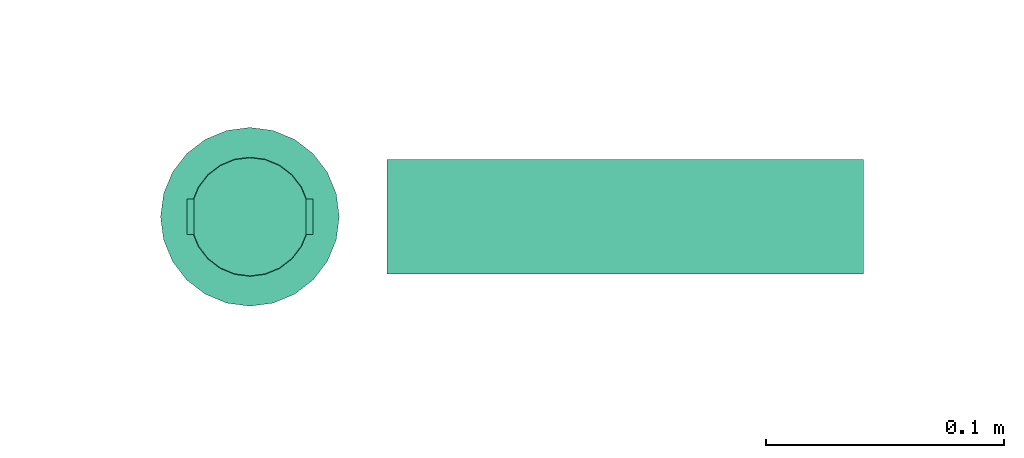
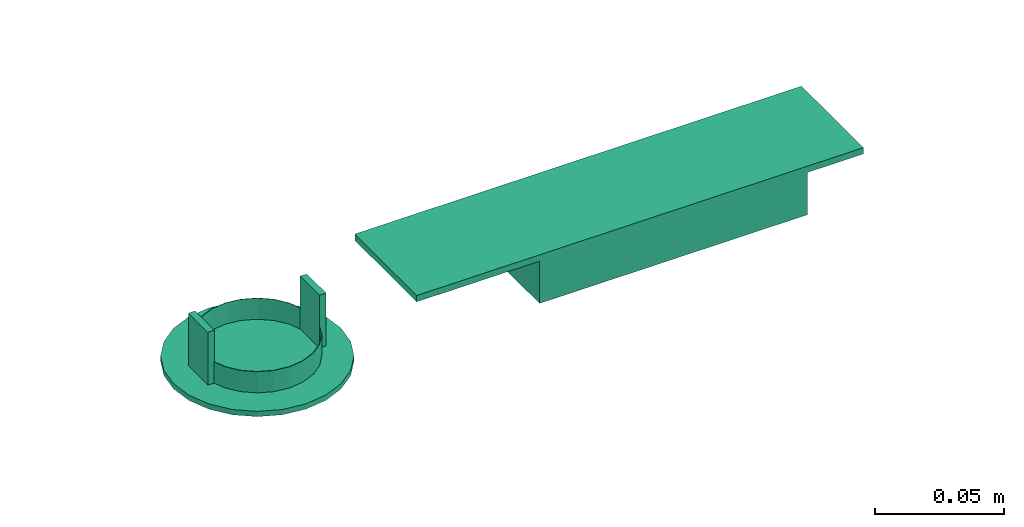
# One storey, part 2 of 7: 1 flow terminal.
"""IFC2X3 building model written with IfcOpenShell, lengths in millimetres."""

from ifc_helpers import new_model, entity, si_unit, converted_unit, derived_unit, direction, frame, origin_with_axes, place, context, subcontext, project, spatial, open_shell, surface_model, source, transform, mapped, type_object, element, save


model = new_model("IFC2X3")

# Units and contexts
model_context = context("Model", 3, precision=0.01, world=frame((0.0, 4.29681676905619e-09, 0.0)), true_north=direction((4.01073788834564e-13, 1.0)))
plan_context = context("Plan", 3, precision=0.01, world=frame((0.0, 4.29681676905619e-09, 0.0)), true_north=direction((4.01073788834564e-13, 1.0)))
body_context = subcontext(model_context, "Body", "Model", "MODEL_VIEW")
ifc_project = project(units=[converted_unit("PLANEANGLEUNIT", "DEGREE", entity("IfcPositiveLengthMeasure", 0.0174532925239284), si_unit("PLANEANGLEUNIT", "RADIAN"), dimensions=[0, 0, 0, 0, 0, 0, 0]), si_unit("AREAUNIT", "SQUARE_METRE"), si_unit("LENGTHUNIT", "METRE", prefix="MILLI"), si_unit("MASSUNIT", "GRAM", prefix="KILO"), si_unit("POWERUNIT", "WATT"), si_unit("PRESSUREUNIT", "PASCAL"), si_unit("FORCEUNIT", "NEWTON", prefix="KILO"), si_unit("ELECTRICVOLTAGEUNIT", "VOLT"), si_unit("ELECTRICCURRENTUNIT", "AMPERE"), si_unit("THERMODYNAMICTEMPERATUREUNIT", "DEGREE_CELSIUS"), si_unit("TIMEUNIT", "SECOND"), si_unit("VOLUMEUNIT", "CUBIC_METRE"), derived_unit("LINEARVELOCITYUNIT", [(si_unit("LENGTHUNIT", "METRE"), 1), (si_unit("TIMEUNIT", "SECOND"), -1)]), derived_unit("VOLUMETRICFLOWRATEUNIT", [(si_unit("VOLUMEUNIT", "CUBIC_METRE"), 1), (si_unit("TIMEUNIT", "SECOND"), -1)]), derived_unit("THERMALTRANSMITTANCEUNIT", [(si_unit("POWERUNIT", "WATT"), 1), (si_unit("THERMODYNAMICTEMPERATUREUNIT", "KELVIN"), -1), (si_unit("AREAUNIT", "SQUARE_METRE"), -1)]), derived_unit("SOUNDPRESSUREUNIT", [(si_unit("PRESSUREUNIT", "PASCAL"), 1)])], contexts=[model_context, plan_context])

# Site, building, storey
site_placement = place(None, frame((0.0, -4.29681676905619e-09, 0.0), z_axis=(0.0, 0.0, 1.0), x_axis=(1.0, 0.0, 0.0)))
site = spatial("IfcSite", under=ifc_project, at=site_placement, Name="ENGM", CompositionType="ELEMENT")
building_placement = place(site_placement, frame((0.0, 4.29681676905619e-09, 0.0), z_axis=(0.0, 0.0, 1.0), x_axis=(1.0, 0.0, 0.0)))
building = spatial("IfcBuilding", under=site, at=building_placement, Name="TH", CompositionType="ELEMENT")
storey_placement = place(building_placement, frame((0.0, 0.0, 210900.0), z_axis=(0.0, 0.0, 1.0), x_axis=(1.0, 0.0, 0.0)))
storey = spatial("IfcBuildingStorey", under=building, at=storey_placement, Name="Nivå F", CompositionType="ELEMENT", Elevation=210900.0)

# Flow terminal
light_fixture_type = type_object("IfcLightFixtureType", Name="IB7405 Zumtobel Resclite C Antipanic ED NDA WH", PredefinedType="NOTDEFINED")
shared_shape = source(origin_with_axes(), body_context, "Body", "SurfaceModel", [
    surface_model("IfcShellBasedSurfaceModel", [(6.47048, -24.14815, -4.9), (12.5, -21.65064, -4.9), (17.67767, -17.67767, -4.9), (24.14815, -6.47048, -4.9), (-24.14815, -6.47048, -4.9), (21.65064, -12.5, -4.9), (-21.65064, 12.5, -4.9), (0.0, -25.0, -4.9), (-12.5, -21.65064, -4.9), (-6.47048, -24.14815, -4.9), (-17.67767, -17.67767, -4.9), (-21.65064, -12.5, -4.9), (25.0, 0.0, -4.9), (24.14815, 6.47048, -4.9), (21.65064, 12.5, -4.9), (17.67767, 17.67767, -4.9), (12.5, 21.65064, -4.9), (6.47048, 24.14815, -4.9), (0.0, 25.0, -4.9), (-25.0, 0.0, -4.9), (-24.14815, 6.47048, -4.9), (-12.5, 21.65064, -4.9), (-17.67767, 17.67767, -4.9), (-6.47048, 24.14815, -4.9), (0.0, 25.0, -5.1), (6.47048, 24.14815, -5.1), (12.5, 21.65064, -5.1), (-21.65064, 12.5, -5.1), (17.67767, 17.67767, -5.1), (21.65064, 12.5, -5.1), (24.14815, 6.47048, -5.1), (-12.5, 21.65064, -5.1), (-17.67767, 17.67767, -5.1), (-6.47048, 24.14815, -5.1), (-25.0, 0.0, -5.1), (-24.14815, 6.47048, -5.1), (-24.14815, -6.47048, -5.1), (24.14815, -6.47048, -5.1), (6.47048, -24.14815, -5.1), (21.65064, -12.5, -5.1), (17.67767, -17.67767, -5.1), (12.5, -21.65064, -5.1), (-12.5, -21.65064, -5.1), (-17.67767, -17.67767, -5.1), (-21.65064, -12.5, -5.1), (0.0, -25.0, -5.1), (-6.47048, -24.14815, -5.1), (25.0, 0.0, -5.1), (232.5, -24.0, 0.0), (232.5, 24.0, 0.0), (232.5, 24.0, 20.0), (232.5, -24.0, 20.0), (112.5, -24.0, 20.0), (112.5, 24.0, 20.0), (112.5, 24.0, 0.0), (112.5, -24.0, 0.0), (57.5, 24.0, 23.0), (57.5, -24.0, 23.0), (257.5, 24.0, 23.0), (257.5, -24.0, 23.0), (257.5, 24.0, 20.0), (257.5, -24.0, 20.0), (57.5, 24.0, 20.0), (57.5, -24.0, 20.0), (23.5, -7.5, 25.0), (26.5, -7.5, 25.0), (23.5, 7.5, 25.0), (26.5, 7.5, 25.0), (23.5, 7.5, 0.0), (26.5, 7.5, 0.0), (23.5, -7.5, 0.0), (26.5, -7.5, 0.0), (-26.5, -7.5, 25.0), (-23.5, -7.5, 25.0), (-26.5, 7.5, 25.0), (-23.5, 7.5, 25.0), (-26.5, 7.5, 0.0), (-23.5, 7.5, 0.0), (-26.5, -7.5, 0.0), (-23.5, -7.5, 0.0), (-20.22543, -14.69463, -5.0), (-25.0, 0.0, -5.0), (7.72542, -23.77641, -5.0), (-7.72542, -23.77641, -5.0), (20.22543, -14.69463, -5.0), (-7.72542, 23.77641, -5.0), (7.72542, 23.77641, -5.0), (20.22543, 14.69463, -5.0), (25.0, 0.0, -5.0), (-20.22543, 14.69463, -5.0), (0.0, -37.5, -2.5), (18.75, -32.47595, -2.5), (32.47595, -18.75, -2.5), (-18.75, -32.47595, -2.5), (-37.5, 0.0, -2.5), (-32.47595, -18.75, -2.5), (18.75, 32.47595, -2.5), (32.47595, 18.75, -2.5), (0.0, 37.5, -2.5), (-32.47595, 18.75, -2.5), (-18.75, 32.47595, -2.5), (37.5, 0.0, -2.5), (22.61271, 7.34732, -5.0), (34.29463, 11.96261, -2.5), (25.61298, 25.61298, -2.5), (13.97542, 19.23552, -5.0), (-13.97542, 19.23552, -5.0), (-34.29463, 11.96261, -2.5), (-22.61271, 7.34732, -5.0), (-25.61298, 25.61298, -2.5), (0.0, 23.77641, -5.0), (9.375, 34.98798, -2.5), (-9.375, 34.98798, -2.5), (-22.61271, -7.34732, -5.0), (-34.29463, -11.96261, -2.5), (-25.61298, -25.61298, -2.5), (-13.97542, -19.23552, -5.0), (13.97542, -19.23552, -5.0), (34.29463, -11.96261, -2.5), (22.61271, -7.34732, -5.0), (25.61298, -25.61298, -2.5), (0.0, -23.77641, -5.0), (-9.375, -34.98798, -2.5), (9.375, -34.98798, -2.5), (12.5, -21.65064, 10.0), (17.67767, -17.67767, 10.0), (12.4, -21.47743, 10.0), (6.41871, -23.95496, 10.0), (0.0, -24.8, 10.0), (6.47048, -24.14815, 10.0), (0.0, -25.0, 10.0), (17.53625, -17.53625, 10.0), (24.14815, -6.47048, 10.0), (24.8, 0.0, 10.0), (23.95496, -6.41871, 10.0), (25.0, 0.0, 10.0), (21.65064, -12.5, 10.0), (21.47743, -12.4, 10.0), (-6.41871, -23.95496, 10.0), (-6.47048, -24.14815, 10.0), (-12.4, -21.47743, 10.0), (-17.67767, -17.67767, 10.0), (-12.5, -21.65064, 10.0), (-17.53625, -17.53625, 10.0), (-21.47743, -12.4, 10.0), (-21.65064, -12.5, 10.0), (-23.95496, -6.41871, 10.0), (-24.14815, -6.47048, 10.0), (-24.8, 0.0, 10.0), (-25.0, 0.0, 10.0), (24.14815, 6.47048, 10.0), (23.95496, 6.41871, 10.0), (21.47743, 12.4, 10.0), (21.65064, 12.5, 10.0), (17.53625, 17.53625, 10.0), (17.67767, 17.67767, 10.0), (12.5, 21.65064, 10.0), (12.4, 21.47743, 10.0), (6.41871, 23.95496, 10.0), (6.47048, 24.14815, 10.0), (0.0, 24.8, 10.0), (0.0, 25.0, 10.0), (-21.65064, 12.5, 10.0), (-21.47743, 12.4, 10.0), (-17.67767, 17.67767, 10.0), (-17.53625, 17.53625, 10.0), (-24.14815, 6.47048, 10.0), (-23.95496, 6.41871, 10.0), (-6.41871, 23.95496, 10.0), (-6.47048, 24.14815, 10.0), (-12.4, 21.47743, 10.0), (-12.5, 21.65064, 10.0), (12.5, 21.65064, 0.0), (17.67767, 17.67767, 0.0), (12.4, 21.47743, 0.0), (6.41871, 23.95496, 0.0), (0.0, 24.8, 0.0), (6.47048, 24.14815, 0.0), (0.0, 25.0, 0.0), (17.53625, 17.53625, 0.0), (24.14815, 6.47048, 0.0), (24.8, 0.0, 0.0), (23.95496, 6.41871, 0.0), (25.0, 0.0, 0.0), (21.65064, 12.5, 0.0), (21.47743, 12.4, 0.0), (-6.41871, 23.95496, 0.0), (-6.47048, 24.14815, 0.0), (-12.4, 21.47743, 0.0), (-17.67767, 17.67767, 0.0), (-12.5, 21.65064, 0.0), (-17.53625, 17.53625, 0.0), (-21.47743, 12.4, 0.0), (-21.65064, 12.5, 0.0), (-23.95496, 6.41871, 0.0), (-24.14815, 6.47048, 0.0), (-24.8, 0.0, 0.0), (-25.0, 0.0, 0.0), (24.14815, -6.47048, 0.0), (23.95496, -6.41871, 0.0), (21.47743, -12.4, 0.0), (21.65064, -12.5, 0.0), (17.53625, -17.53625, 0.0), (17.67767, -17.67767, 0.0), (12.5, -21.65064, 0.0), (12.4, -21.47743, 0.0), (6.41871, -23.95496, 0.0), (6.47048, -24.14815, 0.0), (0.0, -24.8, 0.0), (0.0, -25.0, 0.0), (-21.65064, -12.5, 0.0), (-21.47743, -12.4, 0.0), (-17.67767, -17.67767, 0.0), (-17.53625, -17.53625, 0.0), (-24.14815, -6.47048, 0.0), (-23.95496, -6.41871, 0.0), (-6.41871, -23.95496, 0.0), (-6.47048, -24.14815, 0.0), (-12.4, -21.47743, 0.0), (-12.5, -21.65064, 0.0), (9.70571, -36.22222, 0.0), (18.75, -32.47595, 0.0), (26.5165, -26.5165, 0.0), (32.47595, -18.75, 0.0), (36.22222, -9.70571, 0.0), (0.0, -37.5, 0.0), (36.22222, 9.70571, 0.0), (-36.22222, -9.70571, 0.0), (-18.75, -32.47595, 0.0), (-9.70571, -36.22222, 0.0), (-26.5165, -26.5165, 0.0), (-32.47595, -18.75, 0.0), (37.5, 0.0, 0.0), (32.47595, 18.75, 0.0), (26.5165, 26.5165, 0.0), (0.0, 37.5, 0.0), (9.70571, 36.22222, 0.0), (18.75, 32.47595, 0.0), (-26.5165, 26.5165, 0.0), (-36.22222, 9.70571, 0.0), (-32.47595, 18.75, 0.0), (-37.5, 0.0, 0.0), (-9.70571, 36.22222, 0.0), (-18.75, 32.47595, 0.0), (26.5165, 26.5165, -2.5), (18.65, 32.30275, -2.5), (9.65395, 36.02903, -2.5), (0.0, 37.3, -2.5), (9.70571, 36.22222, -2.5), (26.37508, 26.37508, -2.5), (36.22222, 9.70571, -2.5), (37.3, 0.0, -2.5), (36.02903, 9.65395, -2.5), (32.30275, 18.65, -2.5), (-9.65395, 36.02903, -2.5), (-9.70571, 36.22222, -2.5), (-18.65, 32.30275, -2.5), (-26.5165, 26.5165, -2.5), (-26.37508, 26.37508, -2.5), (-32.30275, 18.65, -2.5), (-36.02903, 9.65395, -2.5), (-36.22222, 9.70571, -2.5), (-37.3, 0.0, -2.5), (36.22222, -9.70571, -2.5), (36.02903, -9.65395, -2.5), (32.30275, -18.65, -2.5), (26.37508, -26.37508, -2.5), (26.5165, -26.5165, -2.5), (18.65, -32.30275, -2.5), (9.65395, -36.02903, -2.5), (9.70571, -36.22222, -2.5), (0.0, -37.3, -2.5), (-32.30275, -18.65, -2.5), (-26.5165, -26.5165, -2.5), (-26.37508, -26.37508, -2.5), (-36.22222, -9.70571, -2.5), (-36.02903, -9.65395, -2.5), (-9.65395, -36.02903, -2.5), (-9.70571, -36.22222, -2.5), (-18.65, -32.30275, -2.5), (26.37508, -26.37508, -0.2), (18.65, -32.30275, -0.2), (9.65395, -36.02903, -0.2), (0.0, -37.3, -0.2), (36.02903, -9.65395, -0.2), (32.30275, -18.65, -0.2), (36.02903, 9.65395, -0.2), (-9.65395, -36.02903, -0.2), (-18.65, -32.30275, -0.2), (-32.30275, -18.65, -0.2), (-26.37508, -26.37508, -0.2), (-37.3, 0.0, -0.2), (-36.02903, -9.65395, -0.2), (37.3, 0.0, -0.2), (26.37508, 26.37508, -0.2), (32.30275, 18.65, -0.2), (0.0, 37.3, -0.2), (9.65395, 36.02903, -0.2), (18.65, 32.30275, -0.2), (-9.65395, 36.02903, -0.2), (-32.30275, 18.65, -0.2), (-26.37508, 26.37508, -0.2), (-36.02903, 9.65395, -0.2), (-18.65, 32.30275, -0.2)], [open_shell([[[0, 1, 2]], [[0, 2, 3]], [[0, 3, 4]], [[3, 2, 5]], [[6, 4, 3]], [[7, 8, 9]], [[7, 0, 8]], [[10, 4, 11]], [[10, 8, 0]], [[4, 10, 0]], [[3, 12, 6]], [[13, 14, 15]], [[13, 15, 16]], [[16, 17, 18]], [[13, 16, 6]], [[6, 16, 18]], [[19, 6, 20]], [[4, 6, 19]], [[6, 21, 22]], [[21, 6, 23]], [[18, 23, 6]], [[6, 12, 13]], [[24, 25, 26]], [[27, 24, 26]], [[28, 29, 30]], [[28, 30, 26]], [[27, 26, 30]], [[31, 27, 32]], [[27, 31, 33]], [[27, 34, 35]], [[27, 33, 24]], [[27, 36, 34]], [[27, 30, 37]], [[36, 27, 37]], [[38, 37, 39]], [[40, 41, 38]], [[40, 38, 39]], [[42, 37, 38]], [[36, 43, 44]], [[36, 37, 43]], [[42, 45, 46]], [[43, 37, 42]], [[38, 45, 42]], [[37, 30, 47]], [[36, 4, 34]], [[44, 11, 36]], [[8, 43, 42]], [[44, 43, 10]], [[9, 42, 46]], [[36, 11, 4]], [[4, 19, 34]], [[9, 8, 42]], [[10, 43, 8]], [[10, 11, 44]], [[7, 9, 46]], [[46, 45, 7]], [[38, 0, 45]], [[41, 1, 38]], [[5, 40, 39]], [[41, 40, 2]], [[3, 39, 37]], [[41, 2, 1]], [[1, 0, 38]], [[12, 3, 37]], [[5, 39, 3]], [[5, 2, 40]], [[47, 12, 37]], [[45, 0, 7]], [[30, 13, 47]], [[29, 14, 30]], [[16, 28, 26]], [[29, 28, 15]], [[17, 26, 25]], [[30, 14, 13]], [[13, 12, 47]], [[17, 16, 26]], [[15, 28, 16]], [[15, 14, 29]], [[18, 17, 25]], [[25, 24, 18]], [[33, 23, 24]], [[31, 21, 33]], [[6, 32, 27]], [[31, 32, 22]], [[20, 27, 35]], [[31, 22, 21]], [[21, 23, 33]], [[19, 20, 35]], [[6, 27, 20]], [[6, 22, 32]], [[34, 19, 35]], [[24, 23, 18]], [[48, 49, 50]], [[50, 51, 48]], [[52, 53, 54]], [[54, 55, 52]], [[50, 49, 54]], [[54, 53, 50]], [[51, 50, 53]], [[53, 52, 51]], [[48, 51, 52]], [[52, 55, 48]], [[49, 48, 55]], [[55, 54, 49]], [[56, 57, 58]], [[59, 58, 57]], [[60, 61, 62]], [[63, 62, 61]], [[59, 57, 63]], [[63, 61, 59]], [[58, 59, 61]], [[61, 60, 58]], [[56, 58, 60]], [[60, 62, 56]], [[57, 56, 62]], [[62, 63, 57]], [[64, 65, 66]], [[67, 66, 65]], [[68, 69, 70]], [[71, 70, 69]], [[67, 65, 71]], [[71, 69, 67]], [[66, 67, 68]], [[69, 68, 67]], [[64, 66, 68]], [[68, 70, 64]], [[65, 64, 71]], [[70, 71, 64]], [[72, 73, 74]], [[75, 74, 73]], [[76, 77, 78]], [[79, 78, 77]], [[75, 73, 79]], [[79, 77, 75]], [[74, 75, 76]], [[77, 76, 75]], [[72, 74, 76]], [[76, 78, 72]], [[73, 72, 79]], [[78, 79, 72]], [[80, 81, 82]], [[80, 82, 83]], [[82, 81, 84]], [[81, 85, 84]], [[86, 84, 85]], [[84, 87, 88]], [[84, 86, 87]], [[85, 81, 89]], [[90, 91, 92]], [[90, 92, 93]], [[93, 94, 95]], [[96, 94, 93]], [[93, 92, 96]], [[97, 96, 92]], [[98, 94, 96]], [[99, 98, 100]], [[99, 94, 98]], [[92, 101, 97]], [[102, 101, 88]], [[97, 103, 102]], [[104, 87, 105]], [[97, 102, 87]], [[101, 102, 103]], [[100, 85, 106]], [[97, 87, 104]], [[105, 86, 96]], [[105, 96, 104]], [[94, 107, 108]], [[99, 108, 107]], [[108, 81, 94]], [[89, 99, 109]], [[110, 111, 86]], [[85, 100, 112]], [[111, 110, 98]], [[106, 89, 109]], [[89, 108, 99]], [[100, 106, 109]], [[85, 112, 110]], [[110, 112, 98]], [[111, 96, 86]], [[113, 94, 81]], [[95, 114, 113]], [[115, 80, 116]], [[95, 113, 80]], [[94, 113, 114]], [[91, 82, 117]], [[95, 80, 115]], [[116, 83, 93]], [[116, 93, 115]], [[101, 118, 119]], [[92, 119, 118]], [[119, 88, 101]], [[84, 92, 120]], [[121, 122, 83]], [[82, 91, 123]], [[122, 121, 90]], [[117, 84, 120]], [[84, 119, 92]], [[91, 117, 120]], [[82, 123, 121]], [[121, 123, 90]], [[122, 93, 83]], [[124, 125, 126]], [[124, 126, 127]], [[128, 129, 127]], [[129, 128, 130]], [[127, 129, 124]], [[126, 125, 131]], [[132, 133, 134]], [[133, 132, 135]], [[132, 134, 136]], [[131, 136, 137]], [[136, 131, 125]], [[137, 136, 134]], [[130, 138, 139]], [[139, 138, 140]], [[141, 142, 143]], [[140, 142, 139]], [[140, 143, 142]], [[130, 128, 138]], [[144, 145, 141]], [[145, 144, 146]], [[144, 141, 143]], [[147, 146, 148]], [[146, 147, 145]], [[147, 148, 149]], [[135, 150, 151]], [[151, 150, 152]], [[152, 153, 154]], [[153, 152, 150]], [[154, 153, 155]], [[155, 156, 157]], [[157, 156, 158]], [[158, 159, 160]], [[159, 158, 156]], [[160, 159, 161]], [[157, 154, 155]], [[162, 163, 164]], [[164, 163, 165]], [[163, 162, 166]], [[149, 167, 166]], [[166, 167, 163]], [[149, 148, 167]], [[168, 161, 169]], [[168, 169, 170]], [[165, 171, 164]], [[165, 170, 171]], [[171, 170, 169]], [[160, 161, 168]], [[151, 133, 135]], [[172, 173, 174]], [[172, 174, 175]], [[176, 177, 175]], [[177, 176, 178]], [[175, 177, 172]], [[174, 173, 179]], [[180, 181, 182]], [[181, 180, 183]], [[180, 182, 184]], [[179, 184, 185]], [[184, 179, 173]], [[185, 184, 182]], [[178, 186, 187]], [[187, 186, 188]], [[189, 190, 191]], [[188, 190, 187]], [[188, 191, 190]], [[178, 176, 186]], [[192, 193, 189]], [[193, 192, 194]], [[192, 189, 191]], [[195, 194, 196]], [[194, 195, 193]], [[195, 196, 197]], [[183, 198, 199]], [[199, 198, 200]], [[200, 201, 202]], [[201, 200, 198]], [[202, 201, 203]], [[203, 204, 205]], [[205, 204, 206]], [[206, 207, 208]], [[207, 206, 204]], [[208, 207, 209]], [[205, 202, 203]], [[210, 211, 212]], [[212, 211, 213]], [[211, 210, 214]], [[197, 215, 214]], [[214, 215, 211]], [[197, 196, 215]], [[216, 209, 217]], [[216, 217, 218]], [[213, 219, 212]], [[213, 218, 219]], [[219, 218, 217]], [[208, 209, 216]], [[199, 181, 183]], [[214, 147, 197]], [[210, 145, 214]], [[142, 212, 219]], [[210, 212, 141]], [[139, 219, 217]], [[214, 145, 147]], [[147, 149, 197]], [[139, 142, 219]], [[141, 212, 142]], [[141, 145, 210]], [[130, 139, 217]], [[217, 209, 130]], [[207, 129, 209]], [[204, 124, 207]], [[136, 203, 201]], [[204, 203, 125]], [[132, 201, 198]], [[204, 125, 124]], [[124, 129, 207]], [[135, 132, 198]], [[136, 201, 132]], [[136, 125, 203]], [[183, 135, 198]], [[209, 129, 130]], [[180, 150, 183]], [[184, 153, 180]], [[156, 173, 172]], [[184, 173, 155]], [[159, 172, 177]], [[180, 153, 150]], [[150, 135, 183]], [[159, 156, 172]], [[155, 173, 156]], [[155, 153, 184]], [[161, 159, 177]], [[177, 178, 161]], [[187, 169, 178]], [[190, 171, 187]], [[162, 189, 193]], [[190, 189, 164]], [[166, 193, 195]], [[190, 164, 171]], [[171, 169, 187]], [[149, 166, 195]], [[162, 193, 166]], [[162, 164, 189]], [[197, 149, 195]], [[178, 169, 161]], [[196, 146, 215]], [[215, 144, 211]], [[218, 213, 140]], [[143, 213, 211]], [[216, 218, 138]], [[146, 144, 215]], [[196, 148, 146]], [[218, 140, 138]], [[140, 213, 143]], [[211, 144, 143]], [[216, 138, 128]], [[128, 208, 216]], [[208, 127, 206]], [[206, 126, 205]], [[200, 202, 137]], [[131, 202, 205]], [[199, 200, 134]], [[126, 131, 205]], [[206, 127, 126]], [[199, 134, 133]], [[134, 200, 137]], [[202, 131, 137]], [[199, 133, 181]], [[128, 127, 208]], [[181, 151, 182]], [[182, 152, 185]], [[174, 179, 157]], [[154, 179, 185]], [[175, 174, 158]], [[151, 152, 182]], [[181, 133, 151]], [[174, 157, 158]], [[157, 179, 154]], [[185, 152, 154]], [[175, 158, 160]], [[160, 176, 175]], [[176, 168, 186]], [[186, 170, 188]], [[192, 191, 163]], [[165, 191, 188]], [[194, 192, 167]], [[170, 165, 188]], [[186, 168, 170]], [[194, 167, 148]], [[167, 192, 163]], [[191, 165, 163]], [[194, 148, 196]], [[160, 168, 176]], [[220, 221, 222]], [[220, 222, 223]], [[220, 224, 225]], [[224, 220, 223]], [[226, 227, 224]], [[225, 228, 229]], [[225, 224, 228]], [[224, 230, 228]], [[224, 231, 230]], [[227, 231, 224]], [[224, 232, 226]], [[226, 233, 234]], [[226, 234, 235]], [[236, 235, 234]], [[236, 234, 237]], [[238, 227, 235]], [[239, 238, 240]], [[238, 239, 241]], [[238, 242, 243]], [[241, 227, 238]], [[235, 242, 238]], [[235, 227, 226]], [[96, 244, 245]], [[96, 245, 246]], [[247, 248, 246]], [[248, 247, 98]], [[246, 248, 96]], [[245, 244, 249]], [[250, 251, 252]], [[251, 250, 101]], [[250, 252, 97]], [[249, 97, 253]], [[97, 249, 244]], [[253, 97, 252]], [[98, 254, 255]], [[255, 254, 256]], [[257, 100, 258]], [[256, 100, 255]], [[256, 258, 100]], [[98, 247, 254]], [[259, 99, 257]], [[99, 259, 260]], [[259, 257, 258]], [[261, 260, 262]], [[260, 261, 99]], [[261, 262, 94]], [[101, 263, 264]], [[264, 263, 265]], [[265, 92, 266]], [[92, 265, 263]], [[266, 92, 267]], [[267, 91, 268]], [[268, 91, 269]], [[269, 270, 271]], [[270, 269, 91]], [[271, 270, 90]], [[268, 266, 267]], [[95, 272, 273]], [[273, 272, 274]], [[272, 95, 275]], [[94, 276, 275]], [[275, 276, 272]], [[94, 262, 276]], [[277, 90, 278]], [[277, 278, 279]], [[274, 93, 273]], [[274, 279, 93]], [[93, 279, 278]], [[271, 90, 277]], [[264, 251, 101]], [[275, 227, 94]], [[95, 231, 275]], [[228, 273, 93]], [[95, 273, 230]], [[229, 93, 278]], [[275, 231, 227]], [[227, 241, 94]], [[229, 228, 93]], [[230, 273, 228]], [[230, 231, 95]], [[225, 229, 278]], [[278, 90, 225]], [[270, 220, 90]], [[91, 221, 270]], [[223, 267, 92]], [[91, 267, 222]], [[224, 92, 263]], [[91, 222, 221]], [[221, 220, 270]], [[232, 224, 263]], [[223, 92, 224]], [[223, 222, 267]], [[101, 232, 263]], [[90, 220, 225]], [[250, 226, 101]], [[97, 233, 250]], [[237, 244, 96]], [[97, 244, 234]], [[236, 96, 248]], [[250, 233, 226]], [[226, 232, 101]], [[236, 237, 96]], [[234, 244, 237]], [[234, 233, 97]], [[235, 236, 248]], [[248, 98, 235]], [[255, 242, 98]], [[100, 243, 255]], [[240, 257, 99]], [[100, 257, 238]], [[239, 99, 261]], [[100, 238, 243]], [[243, 242, 255]], [[241, 239, 261]], [[240, 99, 239]], [[240, 238, 257]], [[94, 241, 261]], [[98, 242, 235]], [[280, 281, 282]], [[280, 282, 283]], [[284, 280, 283]], [[285, 280, 284]], [[286, 284, 283]], [[287, 288, 283]], [[289, 283, 288]], [[290, 289, 288]], [[291, 283, 289]], [[292, 291, 289]], [[286, 293, 284]], [[294, 295, 286]], [[296, 294, 286]], [[296, 297, 298]], [[294, 296, 298]], [[299, 296, 286]], [[300, 301, 302]], [[286, 291, 302]], [[303, 299, 301]], [[302, 301, 299]], [[302, 299, 286]], [[283, 291, 286]], [[262, 292, 276]], [[276, 289, 272]], [[279, 274, 288]], [[290, 274, 272]], [[277, 279, 287]], [[292, 289, 276]], [[262, 291, 292]], [[279, 288, 287]], [[288, 274, 290]], [[272, 289, 290]], [[277, 287, 283]], [[283, 271, 277]], [[271, 282, 269]], [[269, 281, 268]], [[265, 266, 285]], [[280, 266, 268]], [[264, 265, 284]], [[281, 280, 268]], [[269, 282, 281]], [[264, 284, 293]], [[284, 265, 285]], [[266, 280, 285]], [[264, 293, 251]], [[283, 282, 271]], [[251, 286, 252]], [[252, 295, 253]], [[245, 249, 298]], [[294, 249, 253]], [[246, 245, 297]], [[286, 295, 252]], [[251, 293, 286]], [[245, 298, 297]], [[298, 249, 294]], [[253, 295, 294]], [[246, 297, 296]], [[296, 247, 246]], [[247, 299, 254]], [[254, 303, 256]], [[259, 258, 300]], [[301, 258, 256]], [[260, 259, 302]], [[303, 301, 256]], [[254, 299, 303]], [[260, 302, 291]], [[302, 259, 300]], [[258, 301, 300]], [[260, 291, 262]], [[296, 299, 247]]])]),
])
flow_terminal_placement = place(storey_placement, frame((900852.58602, 483092.34416, 2700.0), z_axis=(0.0, 0.0, 1.0), x_axis=(1.0, 0.0, 0.0)))
element("IfcFlowTerminal", 1, at=flow_terminal_placement, inside=storey, type_object=light_fixture_type, Name="IB7405 Zumtobel Resclite C Antipanic ED NDA WH", context=body_context, shape_type="MappedRepresentation", body=[
    mapped(shared_shape, transform((0.0, 0.0, 0.0), scale=1.0)),
])

save(model, "model.ifc")
